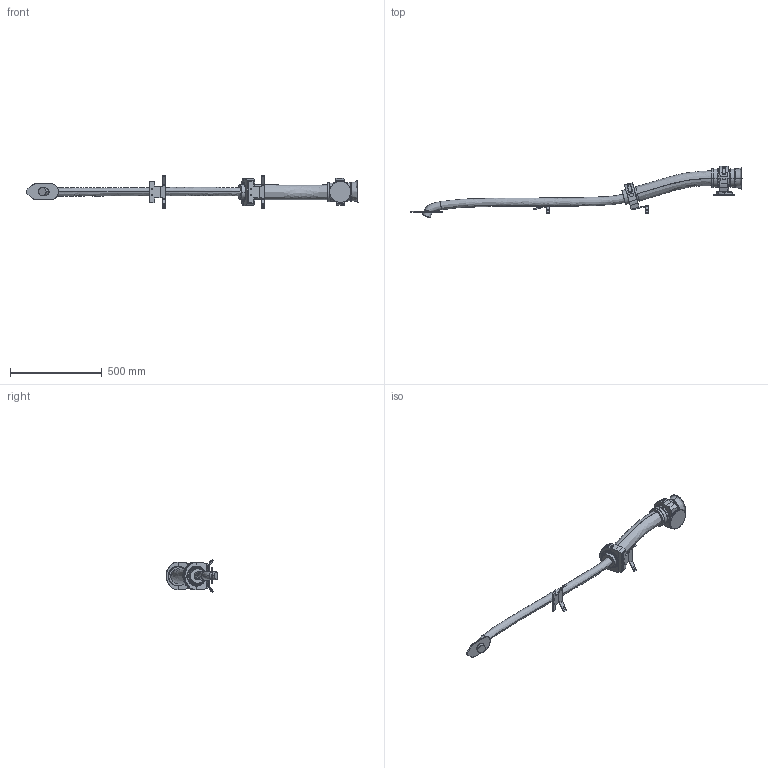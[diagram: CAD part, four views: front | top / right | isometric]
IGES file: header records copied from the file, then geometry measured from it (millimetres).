
Start section: SolidWorks IGES file using analytic representation for surfaces
Global section: file name: N:\DM\Robotics\SEROP_PROJ\Product Development\DevelopmentProjects\Manipulator_Modularity\04. Product Design\06. CAD\Amanda\6730S Simulation models\\IRB6730S-LID-MH_130kg-400_OC_01_IGES_J\IRB6730S-LID_ALL-400-OC_00_LINK04_CABLE.igs; native system: SolidWorks 2024; preprocessor: SolidWorks 2024; author: SEJOHLUN; date: 251219.142004; units: millimetre
Bounding box: 1810.77 x 282.81 x 174.65 mm (x, y, z)
Surface area: 529974.5 mm2 (no closed solid volume)
Topology: 0 solids, 0 shells, 460 faces, 9059 edges, 9059 vertices
Faces by surface type: bspline 261, revolution 199
